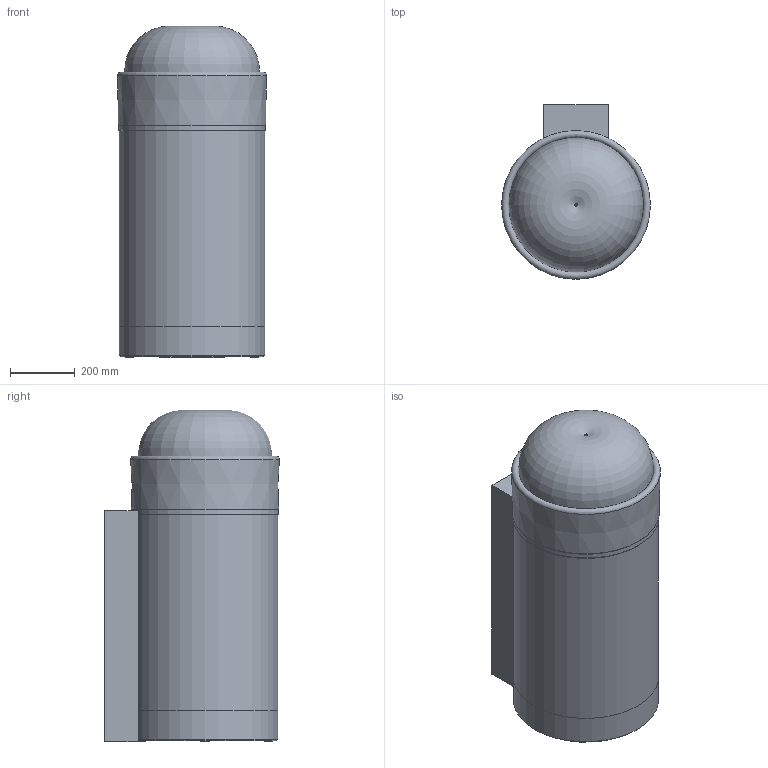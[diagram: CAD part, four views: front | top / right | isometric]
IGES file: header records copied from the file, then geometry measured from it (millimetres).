
Start section: Data from Parasolid IGES Translator 19.0.9, Copyright(c) 2006 Siemens PL M Software. All Rights Reserved.
Global section: file name: noorth-lavabi | washbasin-H 88 D 45 W 45_2905.igs; native system: By Siemens PLM Incorporated; preprocessor: XPlus GENERIC/IGES 19.0.9; author: Noname; organization: Noname; date: 20200511.115840; units: metre
Bounding box: 458 x 538 x 1021.6 mm (x, y, z)
Volume: 60709496.1 mm3; surface area: 4102142.5 mm2
Topology: 15 solids, 15 shells, 110 faces, 174 edges, 104 vertices
Faces by surface type: plane 43, cylinder 31, cone 21, torus 15
Full cylindrical faces by diameter (mm): 4.122 x2, 25 x4, 34.122 x2, 46.08 x1, 46.122 x1, 64 x1, 64.122 x1, 250 x1, 328.382 x1, 353 x1, 417 x1, 429 x2, 429.156 x1, 437 x5, 437.156 x1, 447 x4, 451 x1
